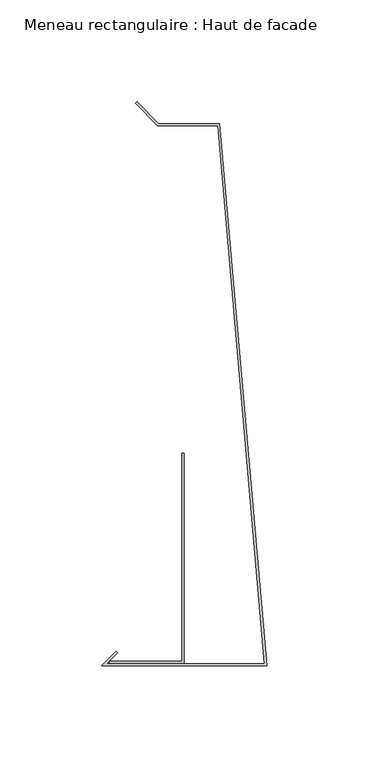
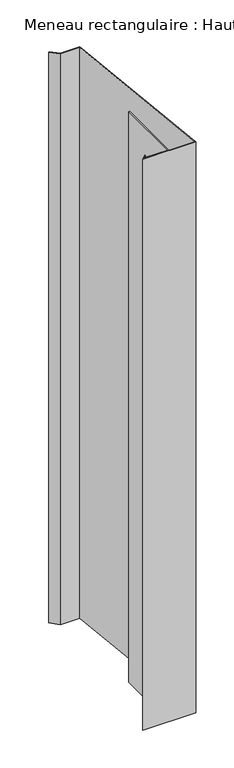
"""IFC4 building model written with IfcOpenShell, lengths in millimetres: member geometry, Meneau rectangulaire : Haut de facade."""

from ifc_helpers import new_model, si_unit, frame, origin, place, context, project, spatial, polyline, outline, extrude, source, transform, mapped, element, save


def meneau_rectangulaire_haut_de_facade_ceb95911(model_context):
    return source(origin(), model_context, "Body", "SweptSolid", [
        extrude(outline(polyline([(-24.0647895, 160.703755), (-53.5626719, 160.703755), (-64.4621669, 171.6032499), (-63.7550601, 172.3103567), (-53.1484584, 161.703755), (-23.1484584, 161.703755), (0.0, -104.2), (-81.0, -104.2), (-73.9289322, -97.1289322), (-73.2218254, -97.836039), (-78.5857864, -103.2), (-1.0913085, -103.2), (-24.0647895, 160.703755)])), frame((0.0, 0.0, -920.0), z_axis=(0.0, 0.0, 1.0), x_axis=(1.0, 0.0, 0.0)), (0.0, 0.0, 1.0), 920.0),
        extrude(outline(polyline([(-40.5477541, -102.9846816), (-77.0752814, -102.9846816), (-77.0752814, -101.9846816), (-41.5477541, -101.9846816), (-41.5477541, -0.0384227), (-40.5477541, -0.0384227), (-40.5477541, -102.9846816)])), frame((0.0, 0.0, -920.0), z_axis=(0.0, 0.0, 1.0), x_axis=(1.0, 0.0, 0.0)), (0.0, 0.0, 1.0), 920.0),
    ])


if __name__ == "__main__":
    model = new_model("IFC4")
    model_context = context("Model", 3, world=origin())
    ifc_project = project(units=[si_unit("LENGTHUNIT", "METRE", prefix="MILLI")], contexts=[model_context])
    site = spatial("IfcSite", under=ifc_project)
    building = spatial("IfcBuilding", under=site)
    placement = place(None, origin())
    meneau_rectangulaire_haut_de_facade_shape = meneau_rectangulaire_haut_de_facade_ceb95911(model_context)
    element("IfcMember", 1, ObjectType="Meneau rectangulaire : Haut de facade", at=placement, inside=building, context=model_context, shape_type="MappedRepresentation", body=[
        mapped(meneau_rectangulaire_haut_de_facade_shape, transform((0.0, 0.0, 0.0), x_axis=(1.0, 0.0, 0.0), y_axis=(0.0, 1.0, 0.0), z_axis=(0.0, 0.0, 1.0))),
    ])
    save(model, "model.ifc")
